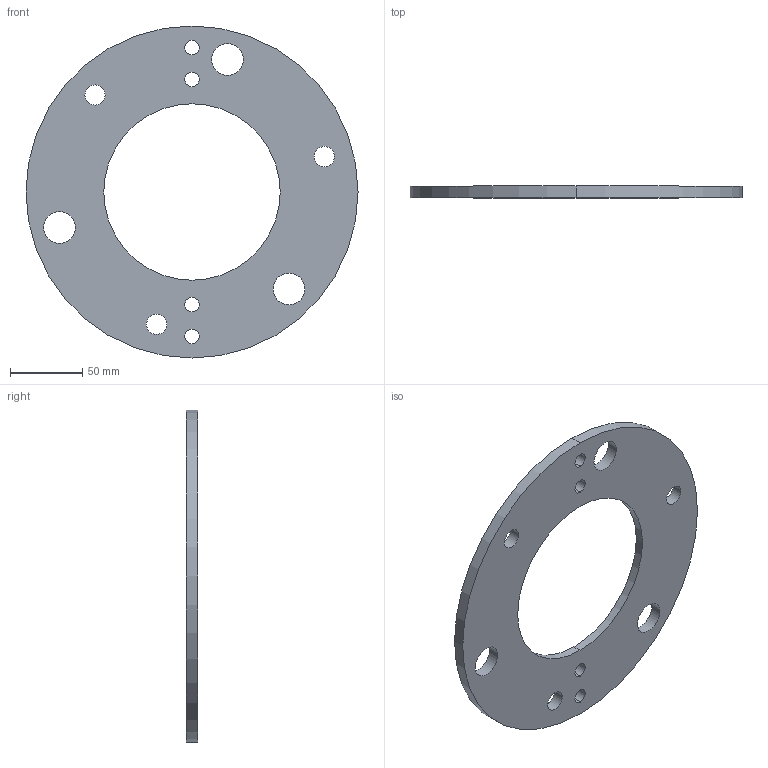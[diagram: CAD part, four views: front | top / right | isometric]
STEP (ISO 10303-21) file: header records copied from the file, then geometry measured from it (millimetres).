
FILE_DESCRIPTION (( 'STEP AP203' ), '1' );
FILE_NAME ('Ñúåìíèê.STEP', '2025-02-03T07:18:03', ( '' ), ( '' ), 'SwSTEP 2.0', 'SolidWorks 2021', '' );
FILE_SCHEMA (( 'CONFIG_CONTROL_DESIGN' ));
Length unit declared in the file: millimetre
Products named in the file (1): Ñúåìíèê
Bounding box: 230 x 8 x 230 mm (x, y, z)
Volume: 218827.8 mm3; surface area: 68697 mm2
Topology: 1 solids, 1 shells, 84 faces, 217 edges, 134 vertices
Faces by surface type: cylinder 49, torus 20, plane 11, bspline 4
Entity records: 2858 total; most frequent: CARTESIAN_POINT 632, DIRECTION 495, ORIENTED_EDGE 426, EDGE_CURVE 213, AXIS2_PLACEMENT_3D 213, VERTEX_POINT 134, CIRCLE 132, EDGE_LOOP 109
